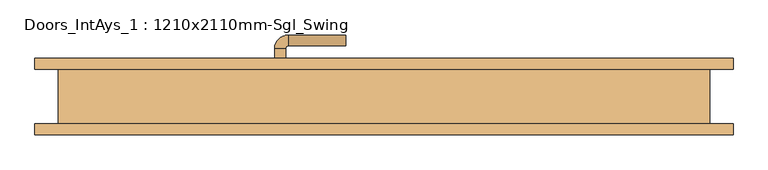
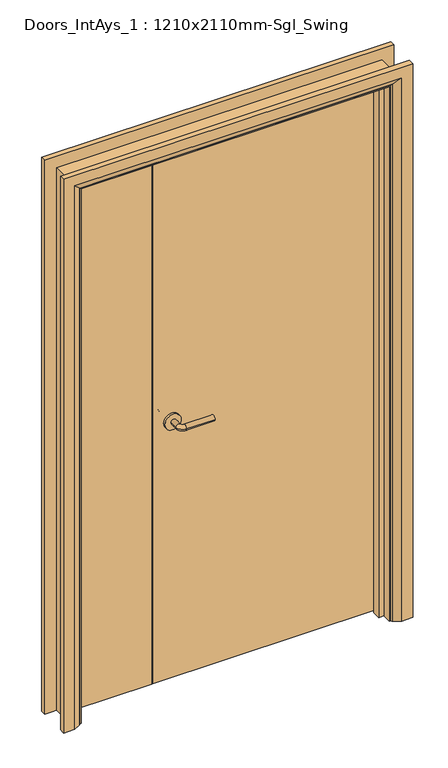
"""IFC4 building model written with IfcOpenShell, lengths in millimetres: door geometry, Doors_IntAys_1 : 1210x2110mm-Sgl_Swing."""

from ifc_helpers import new_model, si_unit, point, frame, frame_2d, origin, place, context, project, spatial, polyline, circle_curve, ellipse_curve, trimmed, segment, composite_curve, outline, extrude, faceted_brep, source, transform, mapped, element, save
from ifc_brep_helpers import plane_surface, cylinder_surface, revolved_surface, advanced_brep


def doors_intays_1_1210x2110mm_sgl_swing_43a15386(model_context):
    return source(origin(), model_context, "Body", "SolidModel", [
        advanced_brep(
        [(38.5, 10.0, 1000.0), (58.5, 10.0, 1000.0), (58.5, -20.0, 1000.0), (38.5, -20.0, 1000.0), (63.5, -25.0, 1000.0), (63.5, -45.0, 1000.0), (168.5, -45.0, 1000.0), (168.5, -25.0, 1000.0)],
        [
            (0, 1, circle_curve(frame((48.5, 10.0, 1000.0), z_axis=(0.0, 1.0, 0.0), x_axis=(1.0, 0.0, 0.0)), 10.0)),
            (1, 0, circle_curve(frame((48.5, 10.0, 1000.0), z_axis=(0.0, 1.0, 0.0), x_axis=(1.0, 0.0, 0.0)), 10.0)),
            (1, 2),
            (2, 3, circle_curve(frame((48.5, -20.0, 1000.0), z_axis=(0.0, 1.0, 0.0), x_axis=(1.0, 0.0, 0.0)), 10.0)),
            (3, 0),
            (3, 2, circle_curve(frame((48.5, -20.0, 1000.0), z_axis=(0.0, 1.0, 0.0), x_axis=(1.0, 0.0, 0.0)), 10.0)),
            (4, 5, circle_curve(frame((63.5, -35.0, 1000.0), z_axis=(-1.0, 0.0, 0.0), x_axis=(0.0, 1.0, 0.0)), 10.0)),
            (5, 3, circle_curve(frame((63.5, -20.0, 1000.0), z_axis=(0.0, 0.0, -1.0), x_axis=(-1.0, 0.0, 0.0)), 25.0)),
            (2, 4, circle_curve(frame((63.5, -20.0, 1000.0), z_axis=(0.0, 0.0, 1.0), x_axis=(-1.0, 0.0, 0.0)), 5.0)),
            (5, 4, circle_curve(frame((63.5, -35.0, 1000.0), z_axis=(-1.0, 0.0, 0.0), x_axis=(0.0, 1.0, 0.0)), 10.0)),
            (6, 7, circle_curve(frame((168.5, -35.0, 1000.0), z_axis=(1.0, 0.0, 0.0), x_axis=(0.0, 1.0, 0.0)), 10.0)),
            (7, 6, circle_curve(frame((168.5, -35.0, 1000.0), z_axis=(1.0, 0.0, 0.0), x_axis=(0.0, 1.0, 0.0)), 10.0)),
            (4, 7),
            (6, 5),
        ],
        [
            plane_surface(frame((48.5, 10.0, 1000.0), z_axis=(0.0, 1.0, 0.0), x_axis=(0.0, 0.0, 1.0))),
            cylinder_surface(frame((48.5, 10.0, 1000.0), z_axis=(0.0, 1.0, 0.0), x_axis=(1.0, 0.0, 0.0)), 10.0),
            revolved_surface(trimmed(ellipse_curve(frame((48.5, -20.0, 1000.0), z_axis=(0.0, -1.0, 0.0), x_axis=(1.0, 0.0, 0.0)), 10.0, 10.0), [point((38.5, -20.0, 1000.0))], [point((58.5, -20.0, 1000.0))], True, "CARTESIAN"), (63.5, -20.0, 1000.0), (0.0, 0.0, -1.0)),
            revolved_surface(trimmed(ellipse_curve(frame((48.5, -20.0, 1000.0), z_axis=(0.0, -1.0, 0.0), x_axis=(1.0, 0.0, 0.0)), 10.0, 10.0), [point((58.5, -20.0, 1000.0))], [point((38.5, -20.0, 1000.0))], True, "CARTESIAN"), (63.5, -20.0, 1000.0), (0.0, 0.0, -1.0)),
            plane_surface(frame((168.5, -35.0, 1000.0), z_axis=(1.0, 0.0, 0.0), x_axis=(0.0, 0.0, 1.0))),
            cylinder_surface(frame((63.5, -35.0, 1000.0), z_axis=(-1.0, 0.0, 0.0), x_axis=(0.0, 1.0, 0.0)), 10.0),
        ],
        [
            (0, [[1, 2]]),
            (1, [[3, 4, 5, -2]]),
            (1, [[-5, 6, -3, -1]]),
            (2, [[7, 8, -4, 9]]),
            (3, [[10, -9, -6, -8]]),
            (4, [[11, 12]]),
            (5, [[13, -11, 14, -7]]),
            (5, [[-14, -12, -13, -10]]),
        ],
    ),
        extrude(outline(composite_curve([segment(trimmed(circle_curve(frame_2d((1000.0, 46.0)), 30.0), [point((1000.0, 16.0))], [point((1000.0, 76.0))], False, "CARTESIAN"), True, "CONTINUOUS"), segment(trimmed(circle_curve(frame_2d((1000.0, 46.0)), 30.0), [point((1000.0, 76.0))], [point((1000.0, 16.0))], False, "CARTESIAN"), True, "CONTINUOUS")], self_intersect=False)), frame((0.0, 10.0, 0.0), z_axis=(0.0, 1.0, 0.0), x_axis=(0.0, 0.0, 1.0)), (0.0, 0.0, 1.0), 8.0),
        advanced_brep(
        [(38.5, 58.0, 1000.0), (58.5, 58.0, 1000.0), (38.5, 88.0, 1000.0), (58.5, 88.0, 1000.0), (63.5, 93.0, 1000.0), (63.5, 113.0, 1000.0), (168.5, 113.0, 1000.0), (168.5, 93.0, 1000.0)],
        [
            (0, 1, circle_curve(frame((48.5, 58.0, 1000.0), z_axis=(0.0, -1.0, 0.0), x_axis=(1.0, 0.0, 0.0)), 10.0)),
            (1, 0, circle_curve(frame((48.5, 58.0, 1000.0), z_axis=(0.0, -1.0, 0.0), x_axis=(1.0, 0.0, 0.0)), 10.0)),
            (0, 2),
            (2, 3, circle_curve(frame((48.5, 88.0, 1000.0), z_axis=(0.0, -1.0, 0.0), x_axis=(1.0, 0.0, 0.0)), 10.0)),
            (3, 1),
            (3, 2, circle_curve(frame((48.5, 88.0, 1000.0), z_axis=(0.0, -1.0, 0.0), x_axis=(1.0, 0.0, 0.0)), 10.0)),
            (4, 3, circle_curve(frame((63.5, 88.0, 1000.0), z_axis=(0.0, 0.0, 1.0), x_axis=(-1.0, 0.0, 0.0)), 5.0)),
            (2, 5, circle_curve(frame((63.5, 88.0, 1000.0), z_axis=(0.0, 0.0, -1.0), x_axis=(-1.0, 0.0, 0.0)), 25.0)),
            (5, 4, circle_curve(frame((63.5, 103.0, 1000.0), z_axis=(-1.0, 0.0, 0.0), x_axis=(0.0, -1.0, 0.0)), 10.0)),
            (4, 5, circle_curve(frame((63.5, 103.0, 1000.0), z_axis=(-1.0, 0.0, 0.0), x_axis=(0.0, -1.0, 0.0)), 10.0)),
            (6, 7, circle_curve(frame((168.5, 103.0, 1000.0), z_axis=(1.0, 0.0, 0.0), x_axis=(0.0, -1.0, 0.0)), 10.0)),
            (7, 6, circle_curve(frame((168.5, 103.0, 1000.0), z_axis=(1.0, 0.0, 0.0), x_axis=(0.0, -1.0, 0.0)), 10.0)),
            (5, 6),
            (7, 4),
        ],
        [
            plane_surface(frame((48.5, 58.0, 1000.0), z_axis=(0.0, -1.0, 0.0), x_axis=(0.0, 0.0, 1.0))),
            cylinder_surface(frame((48.5, 58.0, 1000.0), z_axis=(0.0, -1.0, 0.0), x_axis=(1.0, 0.0, 0.0)), 10.0),
            revolved_surface(trimmed(ellipse_curve(frame((48.5, 88.0, 1000.0), z_axis=(0.0, -1.0, 0.0), x_axis=(1.0, 0.0, 0.0)), 10.0, 10.0), [point((38.5, 88.0, 1000.0))], [point((58.5, 88.0, 1000.0))], True, "CARTESIAN"), (63.5, 88.0, 1000.0), (0.0, 0.0, -1.0)),
            revolved_surface(trimmed(ellipse_curve(frame((48.5, 88.0, 1000.0), z_axis=(0.0, -1.0, 0.0), x_axis=(1.0, 0.0, 0.0)), 10.0, 10.0), [point((58.5, 88.0, 1000.0))], [point((38.5, 88.0, 1000.0))], True, "CARTESIAN"), (63.5, 88.0, 1000.0), (0.0, 0.0, -1.0)),
            plane_surface(frame((168.5, 103.0, 1000.0), z_axis=(1.0, 0.0, 0.0), x_axis=(0.0, 0.0, 1.0))),
            cylinder_surface(frame((63.5, 103.0, 1000.0), z_axis=(-1.0, 0.0, 0.0), x_axis=(0.0, -1.0, 0.0)), 10.0),
        ],
        [
            (0, [[1, 2]]),
            (1, [[-1, 3, 4, 5]]),
            (1, [[-2, -5, 6, -3]]),
            (2, [[7, -4, 8, 9]]),
            (3, [[-8, -6, -7, 10]]),
            (4, [[11, 12]]),
            (5, [[-9, 13, -12, 14]]),
            (5, [[-10, -14, -11, -13]]),
        ],
    ),
        extrude(outline(composite_curve([segment(trimmed(circle_curve(frame_2d((1000.0, 46.0)), 30.0), [point((1000.0, 16.0))], [point((1000.0, 76.0))], False, "CARTESIAN"), True, "CONTINUOUS"), segment(trimmed(circle_curve(frame_2d((1000.0, 46.0)), 30.0), [point((1000.0, 76.0))], [point((1000.0, 16.0))], False, "CARTESIAN"), True, "CONTINUOUS")], self_intersect=False)), frame((0.0, 50.0, 0.0), z_axis=(0.0, 1.0, 0.0), x_axis=(0.0, 0.0, 1.0)), (0.0, 0.0, 1.0), 8.0),
        advanced_brep(
        [(-401.0, -70.0, 0.0), (-401.0, -50.0, 0.0), (-331.0, -50.0, 0.0), (-335.0, -56.0, 0.0), (-361.0, -70.0, 0.0), (-401.0, -70.0, 2145.0), (-401.0, -50.0, 2145.0), (879.0, -50.0, 2145.0), (879.0, -50.0, 0.0), (809.0, -50.0, 0.0), (809.0, -50.0, 2075.0), (-331.0, -50.0, 2075.0), (-335.0, -56.0, 2079.0), (-361.0, -70.0, 2105.0), (839.0, -70.0, 2105.0), (839.0, -70.0, 0.0), (879.0, -70.0, 0.0), (879.0, -70.0, 2145.0), (813.0, -56.0, 0.0), (813.0, -56.0, 2079.0)],
        [
            (0, 1),
            (1, 2),
            (2, 3, circle_curve(frame((-339.0, -49.0, 0.0), z_axis=(0.0, 0.0, -1.0), x_axis=(-1.0, 0.0, 0.0)), 8.0622577)),
            (3, 4),
            (4, 0),
            (0, 5),
            (5, 6),
            (6, 1),
            (6, 7),
            (7, 8),
            (8, 9),
            (9, 10),
            (10, 11),
            (11, 2),
            (11, 12, ellipse_curve(frame((-339.0, -49.0, 2083.0), z_axis=(-0.7071067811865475, 0.0, -0.7071067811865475), x_axis=(0.7071067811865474, 0.0, -0.7071067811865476)), 11.4017543, 8.0622577)),
            (12, 3),
            (12, 13),
            (13, 4),
            (13, 14),
            (14, 15),
            (15, 16),
            (16, 17),
            (17, 5),
            (7, 17),
            (16, 8),
            (15, 18),
            (18, 9, circle_curve(frame((817.0, -49.0, 0.0), z_axis=(0.0, 0.0, -1.0), x_axis=(1.0, 0.0, 0.0)), 8.0622577)),
            (19, 10, ellipse_curve(frame((817.0, -49.0, 2083.0), z_axis=(0.7071067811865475, 0.0, -0.7071067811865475), x_axis=(0.7071067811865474, 0.0, 0.7071067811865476)), 11.4017543, 8.0622577)),
            (18, 19),
            (14, 19),
            (19, 12),
        ],
        [
            plane_surface(frame((-331.0, -50.0, 0.0), z_axis=(0.0, 0.0, -1.0), x_axis=(0.0, -1.0, 0.0))),
            plane_surface(frame((-401.0, -70.0, 0.0), z_axis=(-1.0, 0.0, 0.0), x_axis=(0.0, 0.0, 1.0))),
            plane_surface(frame((-401.0, -50.0, 0.0), z_axis=(0.0, 1.0, 0.0), x_axis=(0.0, 0.0, 1.0))),
            cylinder_surface(frame((-339.0, -49.0, 0.0), z_axis=(0.0, 0.0, -1.0), x_axis=(-1.0, 0.0, 0.0)), 8.0622577),
            plane_surface(frame((-335.0, -56.0, 0.0), z_axis=(0.4740998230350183, -0.8804710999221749, 0.0), x_axis=(0.0, 0.0, 1.0))),
            plane_surface(frame((-361.0, -70.0, 0.0), z_axis=(0.0, -1.0, 0.0), x_axis=(0.0, 0.0, 1.0))),
            plane_surface(frame((879.0, -70.0, 2145.0), z_axis=(1.0, 0.0, 0.0), x_axis=(0.0, 0.0, -1.0))),
            plane_surface(frame((809.0, -50.0, 0.0), z_axis=(0.0, 0.0, -1.0), x_axis=(0.0, -1.0, 0.0))),
            cylinder_surface(frame((817.0, -49.0, 2075.0), z_axis=(0.0, 0.0, 1.0), x_axis=(1.0, 0.0, 0.0)), 8.0622577),
            plane_surface(frame((813.0, -56.0, 2079.0), z_axis=(-0.4740998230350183, -0.8804710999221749, 0.0), x_axis=(0.0, 0.0, -1.0))),
            plane_surface(frame((-401.0, -70.0, 2145.0), z_axis=(0.0, 0.0, 1.0), x_axis=(1.0, 0.0, 0.0))),
            cylinder_surface(frame((-331.0, -49.0, 2083.0), z_axis=(-1.0, 0.0, 0.0), x_axis=(0.0, 0.0, 1.0)), 8.0622577),
            plane_surface(frame((-335.0, -56.0, 2079.0), z_axis=(0.0, -0.8804710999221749, -0.4740998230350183), x_axis=(1.0, 0.0, 0.0))),
        ],
        [
            (0, [[1, 2, 3, 4, 5]]),
            (1, [[-1, 6, 7, 8]]),
            (2, [[-2, -8, 9, 10, 11, 12, 13, 14]]),
            (3, [[-3, -14, 15, 16]]),
            (4, [[-4, -16, 17, 18]]),
            (5, [[-5, -18, 19, 20, 21, 22, 23, -6]]),
            (6, [[24, -22, 25, -10]]),
            (7, [[-21, 26, 27, -11, -25]]),
            (8, [[28, -12, -27, 29]]),
            (9, [[30, -29, -26, -20]]),
            (10, [[-7, -23, -24, -9]]),
            (11, [[-15, -13, -28, 31]]),
            (12, [[-17, -31, -30, -19]]),
        ],
    ),
        advanced_brep(
        [(879.0, 70.0, 0.0), (879.0, 50.0, 0.0), (809.0, 50.0, 0.0), (813.0, 56.0, 0.0), (839.0, 70.0, 0.0), (879.0, 70.0, 2145.0), (879.0, 50.0, 2145.0), (-401.0, 50.0, 2145.0), (-401.0, 50.0, 0.0), (-331.0, 50.0, 0.0), (-331.0, 50.0, 2075.0), (809.0, 50.0, 2075.0), (813.0, 56.0, 2079.0), (839.0, 70.0, 2105.0), (-361.0, 70.0, 2105.0), (-361.0, 70.0, 0.0), (-401.0, 70.0, 0.0), (-401.0, 70.0, 2145.0), (-335.0, 56.0, 0.0), (-335.0, 56.0, 2079.0)],
        [
            (0, 1),
            (1, 2),
            (2, 3, circle_curve(frame((817.0, 49.0, 0.0), z_axis=(0.0, 0.0, -1.0), x_axis=(1.0, 0.0, 0.0)), 8.0622577)),
            (3, 4),
            (4, 0),
            (0, 5),
            (5, 6),
            (6, 1),
            (6, 7),
            (7, 8),
            (8, 9),
            (9, 10),
            (10, 11),
            (11, 2),
            (11, 12, ellipse_curve(frame((817.0, 49.0, 2083.0), z_axis=(0.7071067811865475, 0.0, -0.7071067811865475), x_axis=(-0.7071067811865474, 0.0, -0.7071067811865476)), 11.4017543, 8.0622577)),
            (12, 3),
            (12, 13),
            (13, 4),
            (13, 14),
            (14, 15),
            (15, 16),
            (16, 17),
            (17, 5),
            (7, 17),
            (16, 8),
            (15, 18),
            (18, 9, circle_curve(frame((-339.0, 49.0, 0.0), z_axis=(0.0, 0.0, -1.0), x_axis=(-1.0, 0.0, 0.0)), 8.0622577)),
            (19, 10, ellipse_curve(frame((-339.0, 49.0, 2083.0), z_axis=(-0.7071067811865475, 0.0, -0.7071067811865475), x_axis=(-0.7071067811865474, 0.0, 0.7071067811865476)), 11.4017543, 8.0622577)),
            (18, 19),
            (14, 19),
            (19, 12),
        ],
        [
            plane_surface(frame((809.0, 50.0, 0.0), z_axis=(0.0, 0.0, -1.0), x_axis=(0.0, -1.0, 0.0))),
            plane_surface(frame((879.0, 70.0, 0.0), z_axis=(1.0, 0.0, 0.0), x_axis=(0.0, 0.0, 1.0))),
            plane_surface(frame((879.0, 50.0, 0.0), z_axis=(0.0, -1.0, 0.0), x_axis=(0.0, 0.0, 1.0))),
            cylinder_surface(frame((817.0, 49.0, 0.0), z_axis=(0.0, 0.0, -1.0), x_axis=(1.0, 0.0, 0.0)), 8.0622577),
            plane_surface(frame((813.0, 56.0, 0.0), z_axis=(-0.4740998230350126, 0.8804710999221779, 0.0), x_axis=(0.0, 0.0, 1.0))),
            plane_surface(frame((839.0, 70.0, 0.0), z_axis=(0.0, 1.0, 0.0), x_axis=(0.0, 0.0, 1.0))),
            plane_surface(frame((-401.0, 70.0, 2145.0), z_axis=(-1.0, 0.0, 0.0), x_axis=(0.0, 0.0, -1.0))),
            plane_surface(frame((-331.0, 50.0, 0.0), z_axis=(0.0, 0.0, -1.0), x_axis=(0.0, -1.0, 0.0))),
            cylinder_surface(frame((-339.0, 49.0, 2075.0), z_axis=(0.0, 0.0, 1.0), x_axis=(-1.0, 0.0, 0.0)), 8.0622577),
            plane_surface(frame((-335.0, 56.0, 2079.0), z_axis=(0.4740998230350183, 0.8804710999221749, 0.0), x_axis=(0.0, 0.0, -1.0))),
            plane_surface(frame((879.0, 70.0, 2145.0), z_axis=(0.0, 0.0, 1.0), x_axis=(-1.0, 0.0, 0.0))),
            cylinder_surface(frame((809.0, 49.0, 2083.0), z_axis=(1.0, 0.0, 0.0), x_axis=(0.0, 0.0, 1.0)), 8.0622577),
            plane_surface(frame((813.0, 56.0, 2079.0), z_axis=(0.0, 0.8804710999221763, -0.4740998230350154), x_axis=(-1.0, 0.0, 0.0))),
        ],
        [
            (0, [[1, 2, 3, 4, 5]]),
            (1, [[-1, 6, 7, 8]]),
            (2, [[-2, -8, 9, 10, 11, 12, 13, 14]]),
            (3, [[-3, -14, 15, 16]]),
            (4, [[-4, -16, 17, 18]]),
            (5, [[-5, -18, 19, 20, 21, 22, 23, -6]]),
            (6, [[24, -22, 25, -10]]),
            (7, [[-21, 26, 27, -11, -25]]),
            (8, [[28, -12, -27, 29]]),
            (9, [[30, -29, -26, -20]]),
            (10, [[-7, -23, -24, -9]]),
            (11, [[-15, -13, -28, 31]]),
            (12, [[-17, -31, -30, -19]]),
        ],
    ),
        faceted_brep([(-307.0, 15.0, 0.0), (-307.0, -17.0, 0.0), (-326.0, -17.0, 0.0), (-326.0, 15.0, 0.0), (-307.0, 15.0, 2051.0), (-307.0, -17.0, 2051.0), (-326.0, -17.0, 2070.0), (-326.0, 15.0, 2070.0), (785.0, 15.0, 0.0), (804.0, 15.0, 0.0), (804.0, -17.0, 0.0), (785.0, -17.0, 0.0), (785.0, 15.0, 2051.0), (804.0, 15.0, 2070.0), (804.0, -17.0, 2070.0), (785.0, -17.0, 2051.0)], [[[0, 1, 2, 3]], [[1, 0, 4, 5]], [[2, 1, 5, 6]], [[3, 2, 6, 7]], [[0, 3, 7, 4]], [[8, 9, 10, 11]], [[12, 13, 9, 8]], [[13, 14, 10, 9]], [[14, 15, 11, 10]], [[15, 12, 8, 11]], [[5, 4, 12, 15]], [[6, 5, 15, 14]], [[7, 6, 14, 13]], [[4, 7, 13, 12]]]),
        extrude(outline(polyline([(2102.0, -358.0), (0.0, -358.0), (0.0, -326.0), (2070.0, -326.0), (2070.0, 804.0), (0.0, 804.0), (0.0, 836.0), (2102.0, 836.0), (2102.0, -358.0)])), frame((0.0, -50.0, 0.0), z_axis=(0.0, 1.0, 0.0), x_axis=(0.0, 0.0, 1.0)), (0.0, 0.0, 1.0), 100.0),
        extrude(outline(polyline([(-28.0, 18.0), (-323.0, 18.0), (-323.0, 50.0), (-28.0, 50.0), (-28.0, 18.0)])), frame((0.0, 0.0, 5.753223), z_axis=(0.0, 0.0, 1.0), x_axis=(1.0, 0.0, 0.0)), (0.0, 0.0, 1.0), 2061.246777),
        extrude(outline(polyline([(801.0, 18.0), (-25.0, 18.0), (-25.0, 50.0), (801.0, 50.0), (801.0, 18.0)])), frame((0.0, 0.0, 5.753223), z_axis=(0.0, 0.0, 1.0), x_axis=(1.0, 0.0, 0.0)), (0.0, 0.0, 1.0), 2061.246777),
    ])


if __name__ == "__main__":
    model = new_model("IFC4")
    model_context = context("Model", 3, world=origin())
    ifc_project = project(units=[si_unit("LENGTHUNIT", "METRE", prefix="MILLI")], contexts=[model_context])
    site = spatial("IfcSite", under=ifc_project)
    building = spatial("IfcBuilding", under=site)
    placement = place(None, origin())
    doors_intays_1_1210x2110mm_sgl_swing_shape = doors_intays_1_1210x2110mm_sgl_swing_43a15386(model_context)
    element("IfcDoor", 1, ObjectType="Doors_IntAys_1 : 1210x2110mm-Sgl_Swing", at=placement, inside=building, context=model_context, shape_type="MappedRepresentation", body=[
        mapped(doors_intays_1_1210x2110mm_sgl_swing_shape, transform((0.0, 0.0, 0.0), x_axis=(1.0, 0.0, 0.0), y_axis=(0.0, 1.0, 0.0), z_axis=(0.0, 0.0, 1.0))),
    ])
    save(model, "model.ifc")
